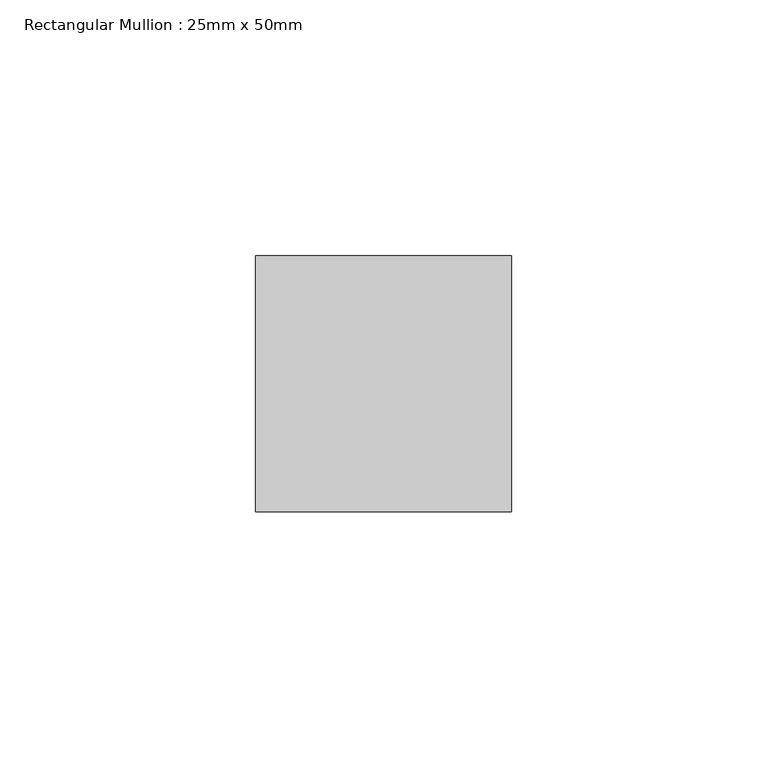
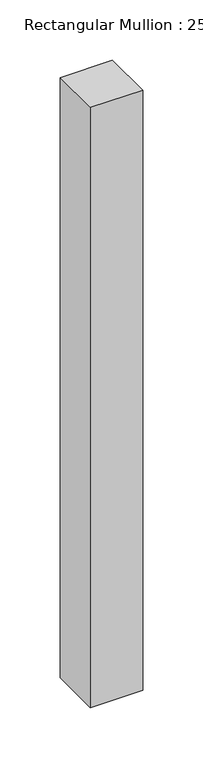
"""IFC4 building model written with IfcOpenShell, lengths in millimetres: member geometry, Rectangular Mullion : 25mm x 50mm."""

from ifc_helpers import new_model, si_unit, frame, origin, place, context, project, spatial, polyline, outline, extrude, source, transform, mapped, element, save


def rectangular_mullion_25mm_x_50mm_b5a42473(model_context):
    return source(origin(), model_context, "Body", "SweptSolid", [
        extrude(outline(polyline([(25.0, 25.0), (25.0, -25.0), (-25.0, -25.0), (-25.0, 25.0), (25.0, 25.0)])), frame((0.0, 0.0, -608.3677047), z_axis=(0.0, 0.0, 1.0), x_axis=(1.0, 0.0, 0.0)), (0.0, 0.0, 1.0), 608.3677047),
    ])


if __name__ == "__main__":
    model = new_model("IFC4")
    model_context = context("Model", 3, world=origin())
    ifc_project = project(units=[si_unit("LENGTHUNIT", "METRE", prefix="MILLI")], contexts=[model_context])
    site = spatial("IfcSite", under=ifc_project)
    building = spatial("IfcBuilding", under=site)
    placement = place(None, origin())
    rectangular_mullion_25mm_x_50mm_shape = rectangular_mullion_25mm_x_50mm_b5a42473(model_context)
    element("IfcMember", 1, ObjectType="Rectangular Mullion : 25mm x 50mm", at=placement, inside=building, context=model_context, shape_type="MappedRepresentation", body=[
        mapped(rectangular_mullion_25mm_x_50mm_shape, transform((0.0, 0.0, 0.0), x_axis=(1.0, 0.0, 0.0), y_axis=(0.0, 1.0, 0.0), z_axis=(0.0, 0.0, 1.0))),
    ])
    save(model, "model.ifc")
